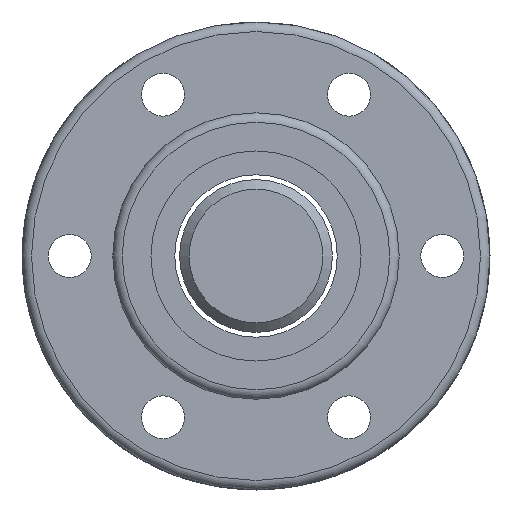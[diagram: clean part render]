
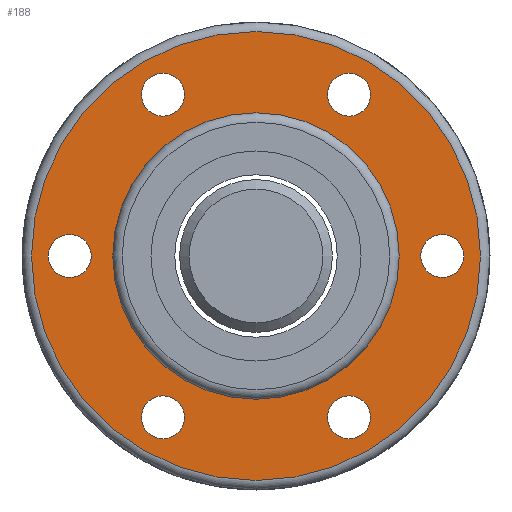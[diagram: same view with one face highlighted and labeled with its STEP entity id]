
A CAD part, left-side view. The second image highlights one B-rep face of the part: STEP entity #188.
In plain terms, the highlighted planar face has unit normal (-1, 0, 0).
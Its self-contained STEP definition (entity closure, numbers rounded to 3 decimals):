
#127=PLANE('',#839);
#150=FACE_OUTER_BOUND('',#396,.T.);
#188=ADVANCED_FACE('',(#283,#284,#285,#286,#287,#288,#289,#150),#127,.T.);
#283=FACE_BOUND('',#389,.T.);
#284=FACE_BOUND('',#390,.T.);
#285=FACE_BOUND('',#391,.T.);
#286=FACE_BOUND('',#392,.T.);
#287=FACE_BOUND('',#393,.T.);
#288=FACE_BOUND('',#394,.T.);
#289=FACE_BOUND('',#395,.T.);
#389=EDGE_LOOP('',(#505));
#390=EDGE_LOOP('',(#506));
#391=EDGE_LOOP('',(#507));
#392=EDGE_LOOP('',(#508));
#393=EDGE_LOOP('',(#509));
#394=EDGE_LOOP('',(#510));
#395=EDGE_LOOP('',(#511));
#396=EDGE_LOOP('',(#512));
#505=ORIENTED_EDGE('',*,*,#671,.F.);
#506=ORIENTED_EDGE('',*,*,#672,.F.);
#507=ORIENTED_EDGE('',*,*,#673,.F.);
#508=ORIENTED_EDGE('',*,*,#674,.F.);
#509=ORIENTED_EDGE('',*,*,#675,.F.);
#510=ORIENTED_EDGE('',*,*,#676,.F.);
#511=ORIENTED_EDGE('',*,*,#677,.T.);
#512=ORIENTED_EDGE('',*,*,#669,.F.);
#609=VERTEX_POINT('',#1225);
#611=VERTEX_POINT('',#1230);
#612=VERTEX_POINT('',#1232);
#613=VERTEX_POINT('',#1234);
#614=VERTEX_POINT('',#1236);
#615=VERTEX_POINT('',#1238);
#616=VERTEX_POINT('',#1240);
#617=VERTEX_POINT('',#1242);
#669=EDGE_CURVE('',#609,#609,#735,.T.);
#671=EDGE_CURVE('',#611,#611,#737,.T.);
#672=EDGE_CURVE('',#612,#612,#738,.T.);
#673=EDGE_CURVE('',#613,#613,#739,.T.);
#674=EDGE_CURVE('',#614,#614,#740,.T.);
#675=EDGE_CURVE('',#615,#615,#741,.T.);
#676=EDGE_CURVE('',#616,#616,#742,.T.);
#677=EDGE_CURVE('',#617,#617,#743,.T.);
#735=CIRCLE('',#829,23.5);
#737=CIRCLE('',#832,2.25);
#738=CIRCLE('',#833,2.25);
#739=CIRCLE('',#834,2.25);
#740=CIRCLE('',#835,2.25);
#741=CIRCLE('',#836,2.25);
#742=CIRCLE('',#837,2.25);
#743=CIRCLE('',#838,15.);
#829=AXIS2_PLACEMENT_3D('',#1224,#1006,#1007);
#832=AXIS2_PLACEMENT_3D('',#1229,#1012,#1013);
#833=AXIS2_PLACEMENT_3D('',#1231,#1014,#1015);
#834=AXIS2_PLACEMENT_3D('',#1233,#1016,#1017);
#835=AXIS2_PLACEMENT_3D('',#1235,#1018,#1019);
#836=AXIS2_PLACEMENT_3D('',#1237,#1020,#1021);
#837=AXIS2_PLACEMENT_3D('',#1239,#1022,#1023);
#838=AXIS2_PLACEMENT_3D('',#1241,#1024,#1025);
#839=AXIS2_PLACEMENT_3D('',#1243,#1026,#1027);
#1006=DIRECTION('',(1.,0.,0.));
#1007=DIRECTION('',(0.,1.,0.));
#1012=DIRECTION('',(-1.,0.,0.));
#1013=DIRECTION('',(0.,-1.,0.));
#1014=DIRECTION('',(-1.,0.,0.));
#1015=DIRECTION('',(0.,-1.,0.));
#1016=DIRECTION('',(-1.,0.,0.));
#1017=DIRECTION('',(0.,-1.,0.));
#1018=DIRECTION('',(-1.,0.,0.));
#1019=DIRECTION('',(0.,-1.,0.));
#1020=DIRECTION('',(-1.,0.,0.));
#1021=DIRECTION('',(0.,-1.,0.));
#1022=DIRECTION('',(-1.,0.,0.));
#1023=DIRECTION('',(0.,-1.,0.));
#1024=DIRECTION('',(1.,0.,0.));
#1025=DIRECTION('',(0.,1.,0.));
#1026=DIRECTION('',(-1.,0.,0.));
#1027=DIRECTION('',(0.,-1.,0.));
#1224=CARTESIAN_POINT('',(-25.,0.,0.));
#1225=CARTESIAN_POINT('',(-25.,23.5,0.));
#1229=CARTESIAN_POINT('',(-25.,9.75,-16.887));
#1230=CARTESIAN_POINT('',(-25.,7.5,-16.887));
#1231=CARTESIAN_POINT('',(-25.,-9.75,-16.887));
#1232=CARTESIAN_POINT('',(-25.,-12.,-16.887));
#1233=CARTESIAN_POINT('',(-25.,-19.5,0.));
#1234=CARTESIAN_POINT('',(-25.,-21.75,0.));
#1235=CARTESIAN_POINT('',(-25.,-9.75,16.887));
#1236=CARTESIAN_POINT('',(-25.,-12.,16.887));
#1237=CARTESIAN_POINT('',(-25.,9.75,16.887));
#1238=CARTESIAN_POINT('',(-25.,7.5,16.887));
#1239=CARTESIAN_POINT('',(-25.,19.5,0.));
#1240=CARTESIAN_POINT('',(-25.,17.25,0.));
#1241=CARTESIAN_POINT('',(-25.,0.,0.));
#1242=CARTESIAN_POINT('',(-25.,15.,0.));
#1243=CARTESIAN_POINT('',(-25.,19.25,0.));
